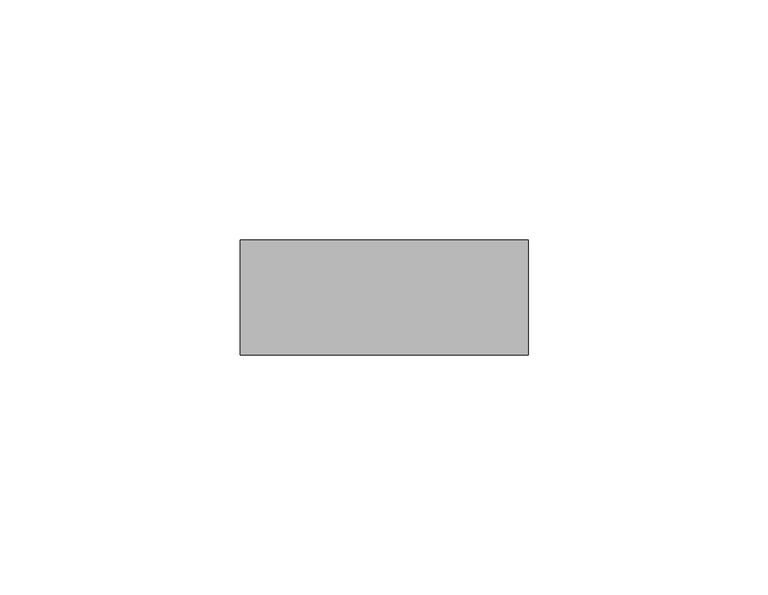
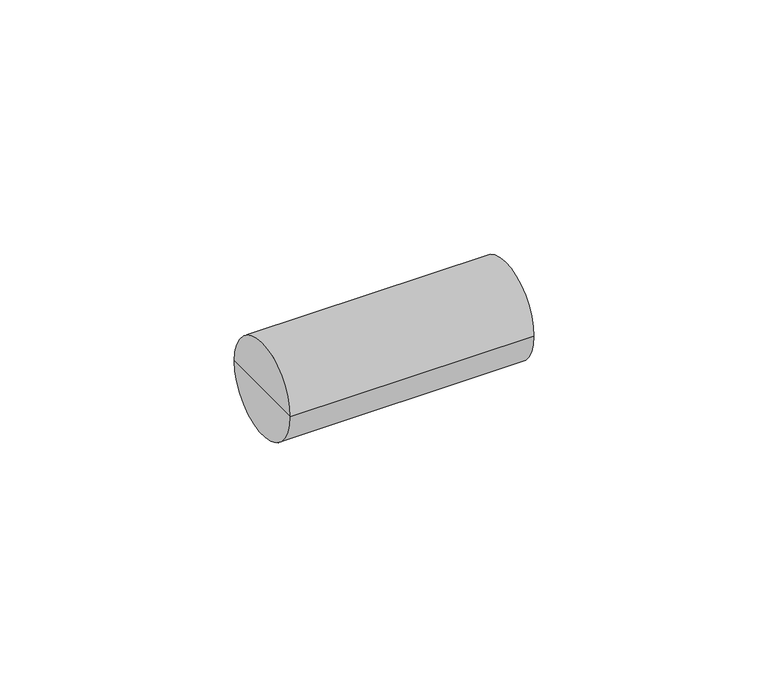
"""IFC4 building model written with IfcOpenShell, lengths in millimetres: cable carrier fitting geometry, Муфта для гофрированных труб, прозрачная GFLEX D ИЭК : CTA10D-GFLEX20-K08-100."""

from ifc_helpers import new_model, si_unit, frame, origin, place, context, project, spatial, circle_curve, source, transform, mapped, element, save
from ifc_brep_helpers import plane_surface, cylinder_surface, advanced_brep


def cable_carrier_fitting_26b4114a(model_context):
    return source(origin(), model_context, "Body", "AdvancedBrep", [
        advanced_brep(
        [(-30.0, -12.0, 0.0), (-30.0, 12.0, 0.0), (30.0, 12.0, 0.0), (30.0, -12.0, 0.0), (-30.0, 0.0, 0.0), (30.0, 0.0, 0.0)],
        [
            (0, 1, circle_curve(frame((-30.0, 0.0, 0.0), z_axis=(1.0, 0.0, 0.0), x_axis=(0.0, 1.0, 0.0)), 12.0)),
            (1, 2),
            (2, 3, circle_curve(frame((30.0, 0.0, 0.0), z_axis=(-1.0, 0.0, 0.0), x_axis=(0.0, 1.0, 0.0)), 12.0)),
            (3, 0),
            (1, 0, circle_curve(frame((-30.0, 0.0, 0.0), z_axis=(1.0, 0.0, 0.0), x_axis=(0.0, 1.0, 0.0)), 12.0)),
            (3, 2, circle_curve(frame((30.0, 0.0, 0.0), z_axis=(-1.0, 0.0, 0.0), x_axis=(0.0, 1.0, 0.0)), 12.0)),
            (4, 1),
            (0, 4),
            (2, 5),
            (5, 3),
        ],
        [
            cylinder_surface(frame((1955.0, 0.0, 0.0), z_axis=(-1.0, 0.0, 0.0), x_axis=(0.0, 1.0, 0.0)), 12.0),
            plane_surface(frame((-30.0, 0.0, 0.0), z_axis=(-1.0, 0.0, 0.0), x_axis=(0.0, 1.0, 0.0))),
            plane_surface(frame((30.0, 0.0, 0.0), z_axis=(1.0, 0.0, 0.0), x_axis=(0.0, 1.0, 0.0))),
        ],
        [
            (0, [[1, 2, 3, 4]]),
            (0, [[5, -4, 6, -2]]),
            (1, [[7, -1, 8]]),
            (1, [[-8, -5, -7]]),
            (2, [[-3, 9, 10]]),
            (2, [[-6, -10, -9]]),
        ],
    ),
    ])


if __name__ == "__main__":
    model = new_model("IFC4")
    model_context = context("Model", 3, world=origin())
    ifc_project = project(units=[si_unit("LENGTHUNIT", "METRE", prefix="MILLI")], contexts=[model_context])
    site = spatial("IfcSite", under=ifc_project)
    building = spatial("IfcBuilding", under=site)
    placement = place(None, origin())
    cable_carrier_fitting_shape = cable_carrier_fitting_26b4114a(model_context)
    element("IfcCableCarrierFitting", 1, ObjectType="Муфта для гофрированных труб, прозрачная GFLEX D ИЭК : CTA10D-GFLEX20-K08-100", at=placement, inside=building, context=model_context, shape_type="MappedRepresentation", body=[
        mapped(cable_carrier_fitting_shape, transform((0.0, 0.0, 0.0), x_axis=(1.0, 0.0, 0.0), y_axis=(0.0, 1.0, 0.0), z_axis=(0.0, 0.0, 1.0))),
    ])
    save(model, "model.ifc")
